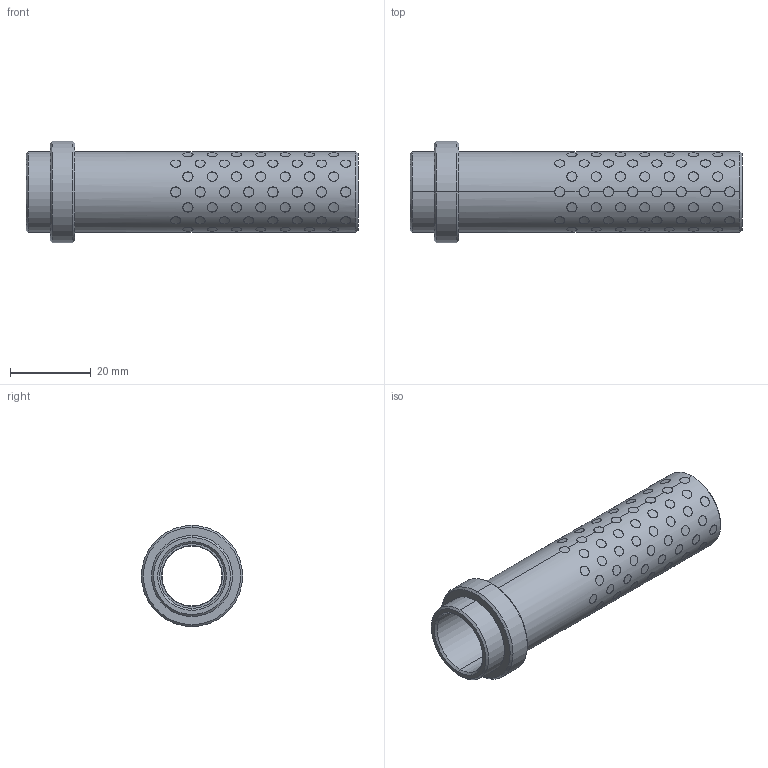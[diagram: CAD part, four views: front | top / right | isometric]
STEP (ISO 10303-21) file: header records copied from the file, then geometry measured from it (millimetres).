
FILE_DESCRIPTION((''),'2;1');
FILE_NAME('G31215076','2017-12-30T',('MANU'),(''),'PRO/ENGINEER BY PARAMETRIC TECHNOLOGY CORPORATION, 2012130','PRO/ENGINEER BY PARAMETRIC TECHNOLOGY CORPORATION, 2012130','');
FILE_SCHEMA(('CONFIG_CONTROL_DESIGN'));
Length unit declared in the file: millimetre
Products named in the file (1): G31215076
Bounding box: 82 x 25 x 25 mm (x, y, z)
Volume: 11438 mm3; surface area: 14442.5 mm2
Topology: 121 solids, 121 shells, 747 faces, 1590 edges, 1056 vertices
Faces by surface type: cylinder 730, cone 12, plane 5
Entity records: 34220 total; most frequent: CARTESIAN_POINT 19699, ORIENTED_EDGE 3180, DIRECTION 2092, EDGE_CURVE 1590, VERTEX_POINT 1056, B_SPLINE_CURVE_WITH_KNOTS 1024, EDGE_LOOP 960, AXIS2_PLACEMENT_3D 779
